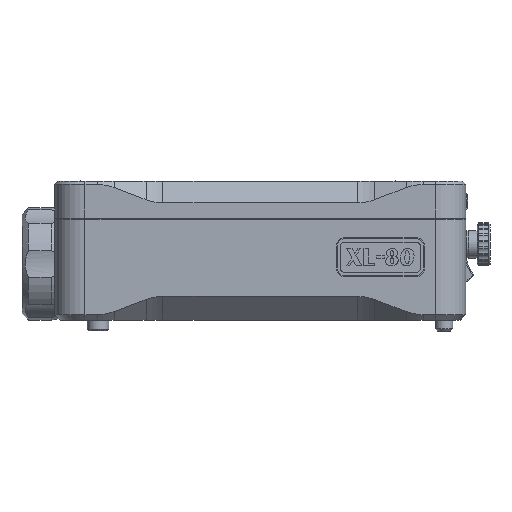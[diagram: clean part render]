
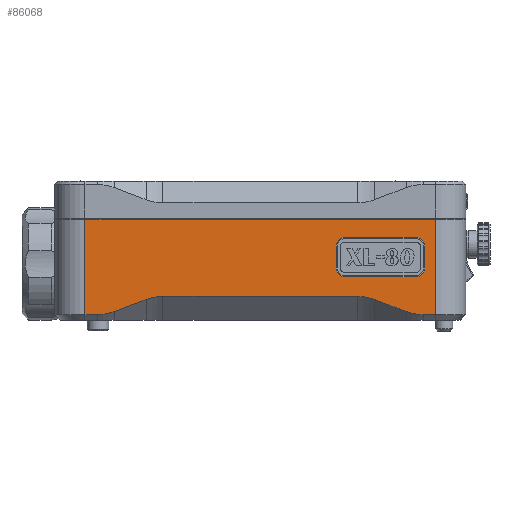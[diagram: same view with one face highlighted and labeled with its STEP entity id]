
A CAD part, front view. The second image highlights one B-rep face of the part: STEP entity #86068.
In plain terms, the highlighted planar face has unit normal (0, -1, 0).
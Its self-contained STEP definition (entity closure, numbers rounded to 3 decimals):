
#67=ELLIPSE('',#228406,42.426,30.);
#68=ELLIPSE('',#228407,42.426,30.);
#69=ELLIPSE('',#228408,42.426,30.);
#70=ELLIPSE('',#228409,42.426,30.);
#72066=PLANE('',#228414);
#86068=ADVANCED_FACE('',(#130997,#130998),#72066,.T.);
#95672=LINE('',#273144,#112620);
#95673=LINE('',#273148,#112621);
#95674=LINE('',#273152,#112622);
#95675=LINE('',#273156,#112623);
#95676=LINE('',#273158,#112624);
#95677=LINE('',#273160,#112625);
#95678=LINE('',#273162,#112626);
#95679=LINE('',#273164,#112627);
#95680=LINE('',#273165,#112628);
#95681=LINE('',#273170,#112629);
#95682=LINE('',#273174,#112630);
#95683=LINE('',#273178,#112631);
#112620=VECTOR('',#236974,1.);
#112621=VECTOR('',#236977,1.);
#112622=VECTOR('',#236980,1.);
#112623=VECTOR('',#236983,1.);
#112624=VECTOR('',#236984,1.);
#112625=VECTOR('',#236985,1.);
#112626=VECTOR('',#236986,1.);
#112627=VECTOR('',#236987,1.);
#112628=VECTOR('',#236988,1.);
#112629=VECTOR('',#236991,1.);
#112630=VECTOR('',#236994,1.);
#112631=VECTOR('',#236997,1.);
#130997=FACE_BOUND('',#132870,.T.);
#130998=FACE_BOUND('',#132871,.T.);
#132870=EDGE_LOOP('',(#144765,#144766,#144767,#144768,#144769,#144770,#144771,
#144772,#144773,#144774,#144775,#144776));
#132871=EDGE_LOOP('',(#144777,#144778,#144779,#144780,#144781,#144782,#144783,
#144784));
#144765=ORIENTED_EDGE('',*,*,#205298,.F.);
#144766=ORIENTED_EDGE('',*,*,#205299,.T.);
#144767=ORIENTED_EDGE('',*,*,#205300,.T.);
#144768=ORIENTED_EDGE('',*,*,#205301,.F.);
#144769=ORIENTED_EDGE('',*,*,#205302,.T.);
#144770=ORIENTED_EDGE('',*,*,#205303,.F.);
#144771=ORIENTED_EDGE('',*,*,#205304,.F.);
#144772=ORIENTED_EDGE('',*,*,#205305,.T.);
#144773=ORIENTED_EDGE('',*,*,#205306,.T.);
#144774=ORIENTED_EDGE('',*,*,#205307,.T.);
#144775=ORIENTED_EDGE('',*,*,#205308,.T.);
#144776=ORIENTED_EDGE('',*,*,#205309,.T.);
#144777=ORIENTED_EDGE('',*,*,#205310,.T.);
#144778=ORIENTED_EDGE('',*,*,#205311,.T.);
#144779=ORIENTED_EDGE('',*,*,#205312,.T.);
#144780=ORIENTED_EDGE('',*,*,#205313,.T.);
#144781=ORIENTED_EDGE('',*,*,#205314,.T.);
#144782=ORIENTED_EDGE('',*,*,#205315,.T.);
#144783=ORIENTED_EDGE('',*,*,#205316,.T.);
#144784=ORIENTED_EDGE('',*,*,#205317,.T.);
#189378=VERTEX_POINT('',#273142);
#189379=VERTEX_POINT('',#273143);
#189380=VERTEX_POINT('',#273145);
#189381=VERTEX_POINT('',#273147);
#189382=VERTEX_POINT('',#273149);
#189383=VERTEX_POINT('',#273151);
#189384=VERTEX_POINT('',#273153);
#189385=VERTEX_POINT('',#273155);
#189386=VERTEX_POINT('',#273157);
#189387=VERTEX_POINT('',#273159);
#189388=VERTEX_POINT('',#273161);
#189389=VERTEX_POINT('',#273163);
#189390=VERTEX_POINT('',#273166);
#189391=VERTEX_POINT('',#273167);
#189392=VERTEX_POINT('',#273169);
#189393=VERTEX_POINT('',#273171);
#189394=VERTEX_POINT('',#273173);
#189395=VERTEX_POINT('',#273175);
#189396=VERTEX_POINT('',#273177);
#189397=VERTEX_POINT('',#273179);
#205298=EDGE_CURVE('',#189378,#189379,#67,.T.);
#205299=EDGE_CURVE('',#189378,#189380,#95672,.T.);
#205300=EDGE_CURVE('',#189380,#189381,#68,.T.);
#205301=EDGE_CURVE('',#189382,#189381,#95673,.T.);
#205302=EDGE_CURVE('',#189382,#189383,#69,.T.);
#205303=EDGE_CURVE('',#189384,#189383,#95674,.T.);
#205304=EDGE_CURVE('',#189385,#189384,#70,.T.);
#205305=EDGE_CURVE('',#189385,#189386,#95675,.T.);
#205306=EDGE_CURVE('',#189386,#189387,#95676,.T.);
#205307=EDGE_CURVE('',#189387,#189388,#95677,.T.);
#205308=EDGE_CURVE('',#189388,#189389,#95678,.T.);
#205309=EDGE_CURVE('',#189389,#189379,#95679,.T.);
#205310=EDGE_CURVE('',#189390,#189391,#95680,.T.);
#205311=EDGE_CURVE('',#189391,#189392,#227134,.T.);
#205312=EDGE_CURVE('',#189392,#189393,#95681,.T.);
#205313=EDGE_CURVE('',#189393,#189394,#227135,.T.);
#205314=EDGE_CURVE('',#189394,#189395,#95682,.T.);
#205315=EDGE_CURVE('',#189395,#189396,#227136,.T.);
#205316=EDGE_CURVE('',#189396,#189397,#95683,.T.);
#205317=EDGE_CURVE('',#189397,#189390,#227137,.T.);
#227134=CIRCLE('',#228410,4.);
#227135=CIRCLE('',#228411,4.);
#227136=CIRCLE('',#228412,4.);
#227137=CIRCLE('',#228413,4.);
#228406=AXIS2_PLACEMENT_3D('',#273141,#236972,#236973);
#228407=AXIS2_PLACEMENT_3D('',#273146,#236975,#236976);
#228408=AXIS2_PLACEMENT_3D('',#273150,#236978,#236979);
#228409=AXIS2_PLACEMENT_3D('',#273154,#236981,#236982);
#228410=AXIS2_PLACEMENT_3D('',#273168,#236989,#236990);
#228411=AXIS2_PLACEMENT_3D('',#273172,#236992,#236993);
#228412=AXIS2_PLACEMENT_3D('',#273176,#236995,#236996);
#228413=AXIS2_PLACEMENT_3D('',#273180,#236998,#236999);
#228414=AXIS2_PLACEMENT_3D('',#273181,#237000,#237001);
#236972=DIRECTION('',(0.,1.,0.));
#236973=DIRECTION('',(0.,0.,-1.));
#236974=DIRECTION('',(0.935,0.,0.354));
#236975=DIRECTION('',(0.,1.,0.));
#236976=DIRECTION('',(0.,0.,-1.));
#236977=DIRECTION('',(-1.,0.,0.));
#236978=DIRECTION('',(0.,1.,0.));
#236979=DIRECTION('',(0.,0.,-1.));
#236980=DIRECTION('',(-0.935,0.,0.354));
#236981=DIRECTION('',(0.,1.,0.));
#236982=DIRECTION('',(0.,0.,-1.));
#236983=DIRECTION('',(1.,0.,0.));
#236984=DIRECTION('',(0.,0.,1.));
#236985=DIRECTION('',(-1.,0.,0.));
#236986=DIRECTION('',(0.,0.,-1.));
#236987=DIRECTION('',(1.,0.,0.));
#236988=DIRECTION('',(1.,0.,0.));
#236989=DIRECTION('',(0.,1.,0.));
#236990=DIRECTION('',(0.,0.,-1.));
#236991=DIRECTION('',(0.,0.,-1.));
#236992=DIRECTION('',(0.,1.,0.));
#236993=DIRECTION('',(0.,0.,-1.));
#236994=DIRECTION('',(-1.,0.,0.));
#236995=DIRECTION('',(0.,1.,0.));
#236996=DIRECTION('',(0.,0.,-1.));
#236997=DIRECTION('',(0.,0.,1.));
#236998=DIRECTION('',(0.,1.,0.));
#236999=DIRECTION('',(0.,0.,-1.));
#237000=DIRECTION('',(0.,-1.,0.));
#237001=DIRECTION('',(0.,0.,-1.));
#273141=CARTESIAN_POINT('',(-48.234,244.204,44.926));
#273142=CARTESIAN_POINT('',(-40.469,244.204,3.946));
#273143=CARTESIAN_POINT('',(-48.234,244.204,2.5));
#273144=CARTESIAN_POINT('',(19.895,244.204,26.82));
#273145=CARTESIAN_POINT('',(-25.707,244.204,9.54));
#273146=CARTESIAN_POINT('',(-17.942,244.204,-31.441));
#273147=CARTESIAN_POINT('',(-17.942,244.204,10.985));
#273148=CARTESIAN_POINT('',(30.058,244.204,10.985));
#273149=CARTESIAN_POINT('',(72.058,244.204,10.985));
#273150=CARTESIAN_POINT('',(72.058,244.204,-31.441));
#273151=CARTESIAN_POINT('',(79.822,244.204,9.54));
#273152=CARTESIAN_POINT('',(39.467,244.204,24.832));
#273153=CARTESIAN_POINT('',(94.585,244.204,3.946));
#273154=CARTESIAN_POINT('',(102.349,244.204,44.926));
#273155=CARTESIAN_POINT('',(102.349,244.204,2.5));
#273156=CARTESIAN_POINT('',(30.058,244.204,2.5));
#273157=CARTESIAN_POINT('',(108.058,244.204,2.5));
#273158=CARTESIAN_POINT('',(108.058,244.204,0.));
#273159=CARTESIAN_POINT('',(108.058,244.204,46.6));
#273160=CARTESIAN_POINT('',(30.058,244.204,46.6));
#273161=CARTESIAN_POINT('',(-53.942,244.204,46.6));
#273162=CARTESIAN_POINT('',(-53.942,244.204,0.));
#273163=CARTESIAN_POINT('',(-53.942,244.204,2.5));
#273164=CARTESIAN_POINT('',(30.058,244.204,2.5));
#273165=CARTESIAN_POINT('',(30.058,244.204,38.1));
#273166=CARTESIAN_POINT('',(66.058,244.204,38.1));
#273167=CARTESIAN_POINT('',(99.058,244.204,38.1));
#273168=CARTESIAN_POINT('',(99.058,244.204,34.1));
#273169=CARTESIAN_POINT('',(103.058,244.204,34.1));
#273170=CARTESIAN_POINT('',(103.058,244.204,0.));
#273171=CARTESIAN_POINT('',(103.058,244.204,24.1));
#273172=CARTESIAN_POINT('',(99.058,244.204,24.1));
#273173=CARTESIAN_POINT('',(99.058,244.204,20.1));
#273174=CARTESIAN_POINT('',(30.058,244.204,20.1));
#273175=CARTESIAN_POINT('',(66.058,244.204,20.1));
#273176=CARTESIAN_POINT('',(66.058,244.204,24.1));
#273177=CARTESIAN_POINT('',(62.058,244.204,24.1));
#273178=CARTESIAN_POINT('',(62.058,244.204,0.));
#273179=CARTESIAN_POINT('',(62.058,244.204,34.1));
#273180=CARTESIAN_POINT('',(66.058,244.204,34.1));
#273181=CARTESIAN_POINT('',(30.058,244.204,0.));
